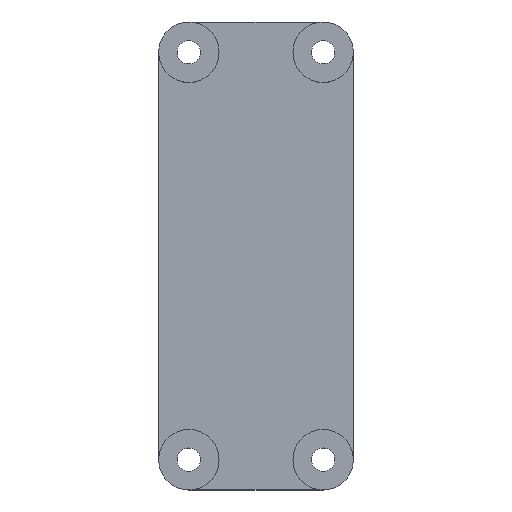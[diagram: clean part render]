
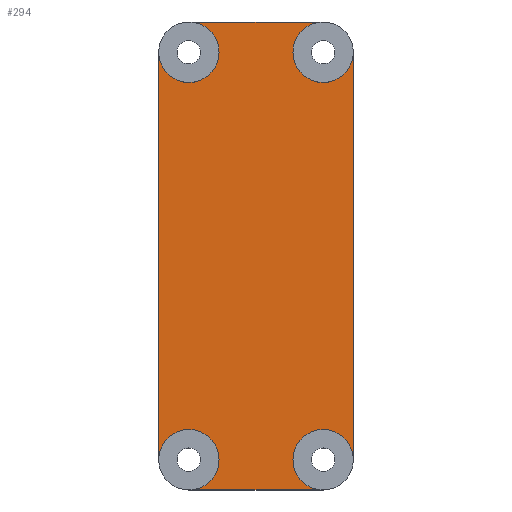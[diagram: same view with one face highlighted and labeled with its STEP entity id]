
A CAD part, top view. The second image highlights one B-rep face of the part: STEP entity #294.
In plain terms, the highlighted planar face has unit normal (0, 0, 1).
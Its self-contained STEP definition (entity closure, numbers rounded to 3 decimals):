
#44=FACE_OUTER_BOUND('',#66,.T.);
#66=EDGE_LOOP('',(#235,#236,#237,#238,#239,#240,#241,#242));
#95=LINE('',#470,#111);
#98=LINE('',#476,#114);
#101=LINE('',#482,#117);
#104=LINE('',#488,#120);
#111=VECTOR('',#373,10.);
#114=VECTOR('',#378,10.);
#117=VECTOR('',#383,10.);
#120=VECTOR('',#388,10.);
#131=CIRCLE('',#323,4.5);
#132=CIRCLE('',#324,4.5);
#133=CIRCLE('',#325,4.5);
#134=CIRCLE('',#326,4.5);
#155=VERTEX_POINT('',#468);
#156=VERTEX_POINT('',#469);
#157=VERTEX_POINT('',#474);
#158=VERTEX_POINT('',#475);
#159=VERTEX_POINT('',#480);
#160=VERTEX_POINT('',#481);
#161=VERTEX_POINT('',#486);
#162=VERTEX_POINT('',#487);
#183=EDGE_CURVE('',#155,#156,#95,.T.);
#186=EDGE_CURVE('',#157,#158,#98,.T.);
#189=EDGE_CURVE('',#159,#160,#101,.T.);
#192=EDGE_CURVE('',#161,#162,#104,.T.);
#195=EDGE_CURVE('',#159,#162,#131,.T.);
#196=EDGE_CURVE('',#161,#156,#132,.T.);
#197=EDGE_CURVE('',#155,#158,#133,.T.);
#198=EDGE_CURVE('',#157,#160,#134,.T.);
#235=ORIENTED_EDGE('',*,*,#195,.T.);
#236=ORIENTED_EDGE('',*,*,#192,.F.);
#237=ORIENTED_EDGE('',*,*,#196,.T.);
#238=ORIENTED_EDGE('',*,*,#183,.F.);
#239=ORIENTED_EDGE('',*,*,#197,.T.);
#240=ORIENTED_EDGE('',*,*,#186,.F.);
#241=ORIENTED_EDGE('',*,*,#198,.T.);
#242=ORIENTED_EDGE('',*,*,#189,.F.);
#284=PLANE('',#322);
#294=ADVANCED_FACE('',(#44),#284,.T.);
#322=AXIS2_PLACEMENT_3D('',#491,#391,#392);
#323=AXIS2_PLACEMENT_3D('',#492,#393,#394);
#324=AXIS2_PLACEMENT_3D('',#493,#395,#396);
#325=AXIS2_PLACEMENT_3D('',#494,#397,#398);
#326=AXIS2_PLACEMENT_3D('',#495,#399,#400);
#373=DIRECTION('',(0.,-1.,0.));
#378=DIRECTION('',(1.,0.,0.));
#383=DIRECTION('',(0.,1.,0.));
#388=DIRECTION('',(-1.,0.,0.));
#391=DIRECTION('center_axis',(0.,0.,1.));
#392=DIRECTION('ref_axis',(1.,0.,0.));
#393=DIRECTION('center_axis',(0.,0.,-1.));
#394=DIRECTION('ref_axis',(-1.,0.,0.));
#395=DIRECTION('center_axis',(0.,0.,-1.));
#396=DIRECTION('ref_axis',(-1.,0.,0.));
#397=DIRECTION('center_axis',(0.,0.,-1.));
#398=DIRECTION('ref_axis',(-1.,0.,0.));
#399=DIRECTION('center_axis',(0.,0.,-1.));
#400=DIRECTION('ref_axis',(-1.,0.,0.));
#468=CARTESIAN_POINT('',(4.5,0.,0.));
#469=CARTESIAN_POINT('',(4.5,-60.7,0.));
#470=CARTESIAN_POINT('',(4.5,0.,0.));
#474=CARTESIAN_POINT('',(-20.,4.5,0.));
#475=CARTESIAN_POINT('',(0.,4.5,0.));
#476=CARTESIAN_POINT('',(-20.,4.5,0.));
#480=CARTESIAN_POINT('',(-24.5,-60.7,0.));
#481=CARTESIAN_POINT('',(-24.5,0.,0.));
#482=CARTESIAN_POINT('',(-24.5,-60.7,0.));
#486=CARTESIAN_POINT('',(0.,-65.2,0.));
#487=CARTESIAN_POINT('',(-20.,-65.2,0.));
#488=CARTESIAN_POINT('',(0.,-65.2,0.));
#491=CARTESIAN_POINT('Origin',(-10.,-30.35,0.));
#492=CARTESIAN_POINT('Origin',(-20.,-60.7,0.));
#493=CARTESIAN_POINT('Origin',(0.,-60.7,0.));
#494=CARTESIAN_POINT('Origin',(0.,0.,0.));
#495=CARTESIAN_POINT('Origin',(-20.,0.,0.));
